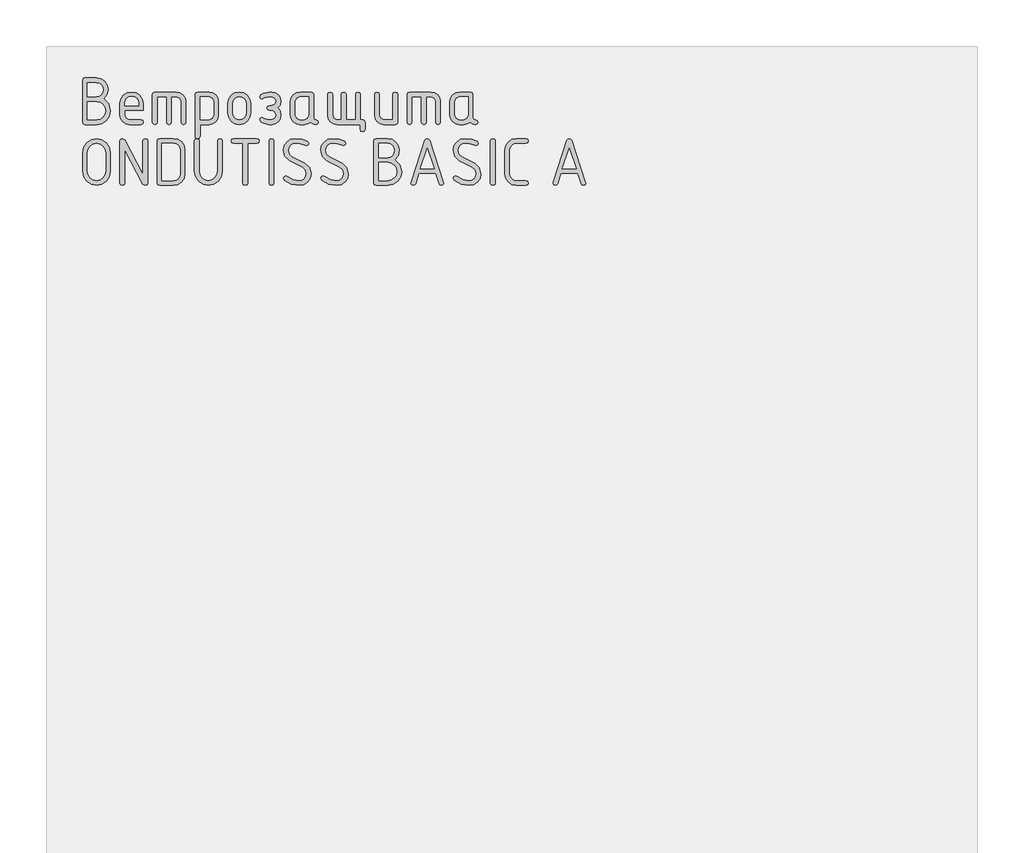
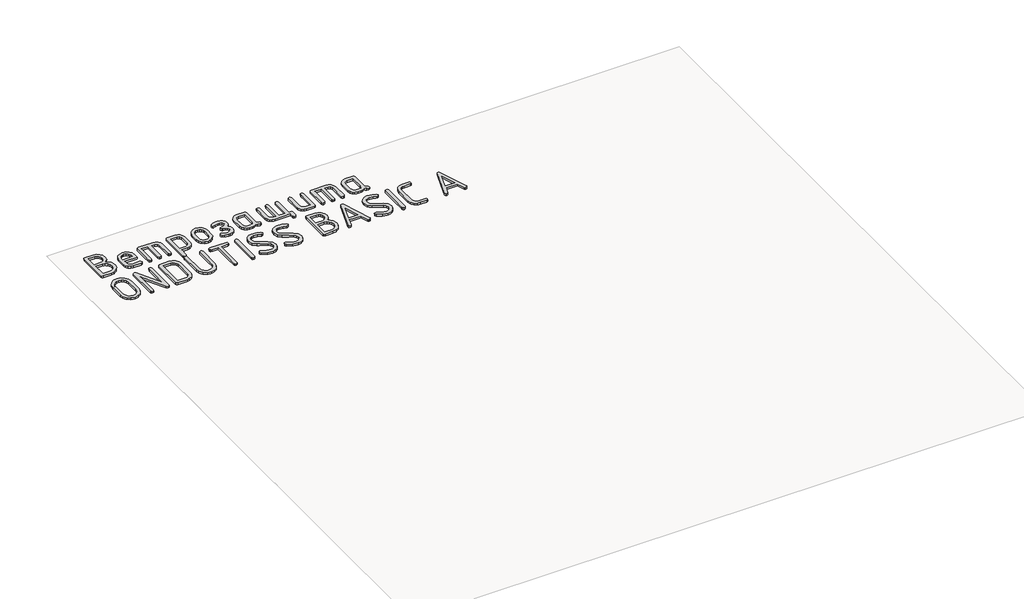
# One storey, part 18 of 42: 1 proxy.
"""IFC4 building model written with IfcOpenShell, lengths in millimetres."""

from ifc_helpers import new_model, si_unit, origin, origin_with_axes, place, context, project, spatial, polyline, outline, extrude, element, save

model = new_model("IFC4")

# Units and contexts
model_context = context("Model", 3, world=origin())
ifc_project = project(units=[si_unit("LENGTHUNIT", "METRE", prefix="MILLI")], contexts=[model_context])

# Site, building, storey
site = spatial("IfcSite", under=ifc_project)
building = spatial("IfcBuilding", under=site)
storey = spatial("IfcBuildingStorey", under=building, Name="Этаж 01", Elevation=0.0)

# Proxy
placement = place(None, origin())
element("IfcBuildingElementProxy", 1, Name="150 мм GOST Common", ObjectType="150 мм GOST Common", at=placement, inside=storey, context=model_context, shape_type="SweptSolid", body=[
    extrude(outline(polyline([(-23252.8873918, -30744.1512234), (-23236.4972471, -30759.9620699), (-23231.0338655, -30782.145197), (-23234.3098969, -30799.2594645), (-23244.137991, -30813.6869868), (-23258.6004709, -30823.5000991), (-23275.7796598, -30826.7711365), (-23313.0545046, -30826.7711365), (-23318.6577168, -30824.8834233), (-23320.5254542, -30819.2202837), (-23320.5254542, -30683.4647398), (-23318.6677047, -30677.8016002), (-23313.0944562, -30675.913887), (-23275.8995146, -30675.913887), (-23261.4620044, -30678.6905234), (-23249.4715299, -30687.0204324), (-23241.3963123, -30699.3854533), (-23238.7045731, -30714.267425), (-23242.2502778, -30730.9272431), (-23252.8873918, -30744.1512234)]), holes=[polyline([(-23305.184039, -30691.2553022), (-23305.184039, -30737.2795478), (-23275.9794178, -30737.2795478), (-23267.5446358, -30735.5965866), (-23260.4582204, -30730.5477029), (-23255.6490463, -30723.1117109), (-23254.0459883, -30714.267425), (-23255.6490463, -30705.4231391), (-23260.4582204, -30697.9871472), (-23267.5446358, -30692.9382635), (-23275.9794178, -30691.2553022), (-23305.184039, -30691.2553022)]), polyline([(-23305.184039, -30752.620963), (-23305.184039, -30811.4297213), (-23275.7796598, -30811.4297213), (-23264.3884593, -30809.2973045), (-23254.9049477, -30802.9000542), (-23248.5076975, -30793.4165427), (-23246.3752807, -30782.0253421), (-23248.5076975, -30770.6341416), (-23254.9049477, -30761.1506301), (-23264.3884593, -30754.7533798), (-23275.7796598, -30752.620963), (-23305.184039, -30752.620963)])]), origin_with_axes(), (0.0, 0.0, 1.0), 10.0),
    extrude(outline(polyline([(-23185.0096199, -30780.7468909), (-23185.0096199, -30796.0883061), (-23180.5749921, -30806.8952144), (-23170.0277691, -30811.4297213), (-23132.5132148, -30811.4297213), (-23126.8800389, -30813.3473982), (-23125.0023136, -30819.1004289), (-23126.8800389, -30824.8534596), (-23132.5132148, -30826.7711365), (-23170.0277691, -30826.7711365), (-23181.683649, -30824.6037621), (-23191.4817794, -30818.1016388), (-23198.1337212, -30808.443339), (-23200.3510351, -30796.8074349), (-23200.3510351, -30759.3727838), (-23197.5694048, -30744.9802191), (-23189.2245139, -30732.8848716), (-23176.9843418, -30724.6748174), (-23162.5168679, -30721.9381326), (-23147.9395271, -30724.5949142), (-23135.8491736, -30732.5652588), (-23127.7140286, -30744.4109088), (-23125.0023136, -30758.6936065), (-23125.0023136, -30780.7468909), (-23185.0096199, -30780.7468909)]), holes=[polyline([(-23162.5168679, -30735.4018225), (-23171.146414, -30737.0498261), (-23178.4176056, -30741.9938369), (-23183.3616163, -30749.2650284), (-23185.0096199, -30757.8945745), (-23185.0096199, -30765.4054757), (-23140.024116, -30765.4054757), (-23140.024116, -30757.8945745), (-23141.6721196, -30749.2650284), (-23146.6161303, -30741.9938369), (-23153.8873219, -30737.0498261), (-23162.5168679, -30735.4018225)])]), origin_with_axes(), (0.0, 0.0, 1.0), 10.0),
    extrude(outline(polyline([(-23087.8473237, -30721.9381326), (-23018.8109553, -30721.9381326), (-23006.9852811, -30724.1204889), (-22997.0772837, -30730.6675577), (-22990.3654146, -30740.3408393), (-22988.1281249, -30751.9018342), (-22988.1281249, -30819.3001869), (-22990.0458018, -30824.9033991), (-22995.7988325, -30826.7711365), (-23001.5518632, -30824.9033991), (-23003.4695401, -30819.3001869), (-23003.4695401, -30752.1814954), (-23007.8841921, -30741.574345), (-23018.8109553, -30737.2795478), (-23034.1523705, -30737.2795478), (-23034.1523705, -30819.3001869), (-23036.0700474, -30824.9033991), (-23041.8230781, -30826.7711365), (-23047.5761088, -30824.9033991), (-23049.4937857, -30819.3001869), (-23049.4937857, -30737.2795478), (-23080.1766161, -30737.2795478), (-23080.1766161, -30819.3001869), (-23082.094293, -30824.9033991), (-23087.8473237, -30826.7711365), (-23093.6003544, -30824.9033991), (-23095.5180313, -30819.3001869), (-23095.5180313, -30729.4090822), (-23093.6003544, -30723.80587), (-23087.8473237, -30721.9381326)])), origin_with_axes(), (0.0, 0.0, 1.0), 10.0),
    extrude(outline(polyline([(-22957.4452945, -30729.4889854), (-22955.587545, -30723.8258458), (-22950.0142965, -30721.9381326), (-22912.9392098, -30721.9381326), (-22901.4431363, -30724.105507), (-22891.8847155, -30730.6076303), (-22885.4425196, -30740.2659301), (-22883.295121, -30751.9018342), (-22883.295121, -30796.8074349), (-22885.4275378, -30808.3684298), (-22891.8247881, -30818.0417114), (-22901.3082996, -30824.5887802), (-22912.6995002, -30826.7711365), (-22942.1038793, -30826.7711365), (-22942.1038793, -30865.1246745), (-22944.0215562, -30870.8777052), (-22949.7745869, -30872.7953821), (-22955.5276176, -30870.9076689), (-22957.4452945, -30865.2445293), (-22957.4452945, -30729.4889854)]), holes=[polyline([(-22942.1038793, -30737.2795478), (-22942.1038793, -30811.4297213), (-22913.1389678, -30811.4297213), (-22902.871406, -30807.0949725), (-22898.6365362, -30796.6076769), (-22898.6365362, -30752.1015922), (-22902.8114786, -30741.5543692), (-22913.1389678, -30737.2795478), (-22942.1038793, -30737.2795478)])]), origin_with_axes(), (0.0, 0.0, 1.0), 10.0),
    extrude(outline(polyline([(-22852.6122906, -30789.3364853), (-22852.6122906, -30759.3727838), (-22849.9005756, -30744.9802191), (-22841.7654307, -30732.8848716), (-22829.784944, -30724.6748174), (-22815.5372039, -30721.9381326), (-22801.1396453, -30724.6448537), (-22789.1891223, -30732.7650168), (-22781.1438685, -30744.8304006), (-22778.4621172, -30759.3727838), (-22778.4621172, -30789.3364853), (-22781.1738322, -30803.72905), (-22789.3089771, -30815.8243975), (-22801.2894638, -30824.0344517), (-22815.5372039, -30826.7711365), (-22829.784944, -30824.0344517), (-22841.7654307, -30815.8243975), (-22849.9005756, -30803.72905), (-22852.6122906, -30789.3364853)]), holes=[polyline([(-22793.8035324, -30788.8970177), (-22793.8035324, -30758.8933645), (-22795.3966025, -30750.2638185), (-22800.1758129, -30742.9926269), (-22807.2023009, -30738.0486162), (-22815.5372039, -30736.4006126), (-22823.8721069, -30738.0486162), (-22830.8985949, -30742.9926269), (-22835.6778053, -30750.2638185), (-22837.2708754, -30758.8933645), (-22837.2708754, -30788.8970177), (-22835.6927871, -30797.606467), (-22830.9585223, -30804.8776585), (-22823.9470161, -30809.7917056), (-22815.5372039, -30811.4297213), (-22807.2023009, -30809.7817177), (-22800.1758129, -30804.8377069), (-22795.3966025, -30797.5565275), (-22793.8035324, -30788.8970177)])]), origin_with_axes(), (0.0, 0.0, 1.0), 10.0),
    extrude(outline(polyline([(-22696.6412361, -30796.0483545), (-22700.6363963, -30784.7020995), (-22709.505652, -30780.7468909), (-22719.1739397, -30780.7468909), (-22724.4875028, -30778.5495528), (-22726.6448893, -30773.1161349), (-22724.4275754, -30767.6627412), (-22717.0165532, -30765.4054757), (-22714.7393119, -30765.4054757), (-22712.3422157, -30765.4054757), (-22700.6763479, -30761.3503881), (-22696.6412361, -30751.3425118), (-22700.9759849, -30741.3346354), (-22711.6630385, -30737.2795478), (-22719.1739397, -30737.2795478), (-22734.5553065, -30741.0949258), (-22743.4645138, -30744.9103038), (-22747.459674, -30742.1736191), (-22749.1775929, -30736.9199834), (-22746.1013195, -30731.1769406), (-22736.8724994, -30726.013196), (-22719.1739397, -30721.9381326), (-22711.6630385, -30721.9381326), (-22699.9771949, -30724.0555675), (-22690.1690766, -30730.4078723), (-22683.5171348, -30739.8264625), (-22681.2998209, -30751.1427537), (-22683.9466146, -30764.4366493), (-22691.8869955, -30773.0761833), (-22683.9466146, -30782.2650518), (-22681.2998209, -30796.0883061), (-22683.5171348, -30807.9888895), (-22690.1690766, -30817.881905), (-22699.9771949, -30824.5488286), (-22711.6630385, -30826.7711365), (-22719.1739397, -30826.7711365), (-22736.9923542, -30822.8159279), (-22746.1312832, -30817.7420744), (-22749.1775929, -30811.7892857), (-22747.459674, -30806.5156742), (-22743.3446589, -30803.7989653), (-22734.2157179, -30807.6143433), (-22719.1739397, -30811.4297213), (-22711.6630385, -30811.4297213), (-22701.0159365, -30806.935166), (-22696.6412361, -30796.0483545)])), origin_with_axes(), (0.0, 0.0, 1.0), 10.0),
    extrude(outline(polyline([(-22561.4849663, -30819.3001869), (-22563.3527037, -30824.9033991), (-22568.9559159, -30826.7711365), (-22578.4344335, -30824.7835443), (-22586.01525, -30818.8207677), (-22595.1342031, -30824.7835443), (-22606.1109058, -30826.7711365), (-22620.9729018, -30826.7711365), (-22632.4689753, -30824.6037621), (-22642.0273961, -30818.1016388), (-22648.4695919, -30808.443339), (-22650.6169905, -30796.8074349), (-22650.6169905, -30751.9018342), (-22648.4695919, -30740.2659301), (-22642.0273961, -30730.6076303), (-22632.4689753, -30724.105507), (-22620.9729018, -30721.9381326), (-22583.8978151, -30721.9381326), (-22578.3245666, -30723.80587), (-22576.4668171, -30729.4090822), (-22576.4668171, -30804.3183361), (-22574.5940857, -30809.9215483), (-22568.9758917, -30811.7892857), (-22563.3576976, -30813.667011), (-22561.4849663, -30819.3001869)]), holes=[polyline([(-22591.8082323, -30737.2795478), (-22620.7731438, -30737.2795478), (-22631.0407055, -30741.6142966), (-22635.2755753, -30752.1015922), (-22635.2755753, -30796.6076769), (-22631.0007539, -30807.0550209), (-22620.7731438, -30811.4297213), (-22606.3106638, -30811.4297213), (-22596.0431021, -30807.0949725), (-22591.8082323, -30796.6076769), (-22591.8082323, -30737.2795478)])]), origin_with_axes(), (0.0, 0.0, 1.0), 10.0),
    extrude(outline(polyline([(-22425.6095676, -30826.7711365), (-22500.4788699, -30826.7711365), (-22512.114774, -30824.5887802), (-22521.7730738, -30818.0417114), (-22528.2751971, -30808.3684298), (-22530.4425715, -30796.8074349), (-22530.4425715, -30729.4090822), (-22528.5248946, -30723.80587), (-22522.7718639, -30721.9381326), (-22517.0188332, -30723.80587), (-22515.1011563, -30729.4090822), (-22515.1011563, -30796.5277737), (-22510.9461897, -30807.0150692), (-22501.0381924, -30811.4297213), (-22486.9752284, -30811.4297213), (-22486.9752284, -30729.4090822), (-22485.0575515, -30723.80587), (-22479.3045208, -30721.9381326), (-22473.5514901, -30723.80587), (-22471.6338132, -30729.4090822), (-22471.6338132, -30811.4297213), (-22440.9509828, -30811.4297213), (-22440.9509828, -30729.4090822), (-22439.0333059, -30723.80587), (-22433.2802752, -30721.9381326), (-22427.5272445, -30723.80587), (-22425.6095676, -30729.4090822), (-22425.6095676, -30811.4297213), (-22417.93886, -30811.4297213), (-22412.1858293, -30813.3473982), (-22410.2681524, -30819.1004289), (-22410.2681524, -30842.1125517), (-22412.1858293, -30847.8655824), (-22417.93886, -30849.7832593), (-22423.6918907, -30847.8655824), (-22425.6095676, -30842.1125517), (-22425.6095676, -30826.7711365)])), origin_with_axes(), (0.0, 0.0, 1.0), 10.0),
    extrude(outline(polyline([(-22305.4351486, -30729.4090822), (-22305.4351486, -30819.3001869), (-22307.2928981, -30824.9033991), (-22312.8661466, -30826.7711365), (-22349.9412333, -30826.7711365), (-22361.4373068, -30824.6037621), (-22370.9957276, -30818.1016388), (-22377.4379234, -30808.443339), (-22379.585322, -30796.8074349), (-22379.585322, -30729.4090822), (-22377.6676451, -30723.80587), (-22371.9146144, -30721.9381326), (-22366.1615837, -30723.80587), (-22364.2439068, -30729.4090822), (-22364.2439068, -30796.5277737), (-22359.9690854, -30807.0150692), (-22349.7414753, -30811.4297213), (-22320.7765638, -30811.4297213), (-22320.7765638, -30729.4090822), (-22318.8588869, -30723.80587), (-22313.1058562, -30721.9381326), (-22307.3528255, -30723.80587), (-22305.4351486, -30729.4090822)])), origin_with_axes(), (0.0, 0.0, 1.0), 10.0),
    extrude(outline(polyline([(-22267.0816106, -30721.9381326), (-22198.0452422, -30721.9381326), (-22186.219568, -30724.1204889), (-22176.3115707, -30730.6675577), (-22169.5997015, -30740.3408393), (-22167.3624118, -30751.9018342), (-22167.3624118, -30819.3001869), (-22169.2800887, -30824.9033991), (-22175.0331194, -30826.7711365), (-22180.7861501, -30824.9033991), (-22182.703827, -30819.3001869), (-22182.703827, -30752.1814954), (-22187.118479, -30741.574345), (-22198.0452422, -30737.2795478), (-22213.3866574, -30737.2795478), (-22213.3866574, -30819.3001869), (-22215.3043343, -30824.9033991), (-22221.057365, -30826.7711365), (-22226.8103957, -30824.9033991), (-22228.7280726, -30819.3001869), (-22228.7280726, -30737.2795478), (-22259.410903, -30737.2795478), (-22259.410903, -30819.3001869), (-22261.3285799, -30824.9033991), (-22267.0816106, -30826.7711365), (-22272.8346413, -30824.9033991), (-22274.7523182, -30819.3001869), (-22274.7523182, -30729.4090822), (-22272.8346413, -30723.80587), (-22267.0816106, -30721.9381326)])), origin_with_axes(), (0.0, 0.0, 1.0), 10.0),
    extrude(outline(polyline([(-22047.5475572, -30819.3001869), (-22049.4152946, -30824.9033991), (-22055.0185068, -30826.7711365), (-22064.4970244, -30824.7835443), (-22072.0778409, -30818.8207677), (-22081.196794, -30824.7835443), (-22092.1734967, -30826.7711365), (-22107.0354927, -30826.7711365), (-22118.5315662, -30824.6037621), (-22128.089987, -30818.1016388), (-22134.5321828, -30808.443339), (-22136.6795814, -30796.8074349), (-22136.6795814, -30751.9018342), (-22134.5321828, -30740.2659301), (-22128.089987, -30730.6076303), (-22118.5315662, -30724.105507), (-22107.0354927, -30721.9381326), (-22069.9604059, -30721.9381326), (-22064.3871575, -30723.80587), (-22062.529408, -30729.4090822), (-22062.529408, -30804.3183361), (-22060.6566766, -30809.9215483), (-22055.0384826, -30811.7892857), (-22049.4202885, -30813.667011), (-22047.5475572, -30819.3001869)]), holes=[polyline([(-22077.8708232, -30737.2795478), (-22106.8357347, -30737.2795478), (-22117.1032964, -30741.6142966), (-22121.3381662, -30752.1015922), (-22121.3381662, -30796.6076769), (-22117.0633448, -30807.0550209), (-22106.8357347, -30811.4297213), (-22092.3732547, -30811.4297213), (-22082.105693, -30807.0949725), (-22077.8708232, -30796.6076769), (-22077.8708232, -30737.2795478)])]), origin_with_axes(), (0.0, 0.0, 1.0), 10.0),
    extrude(outline(polyline([(-23231.0338655, -30977.5302169), (-23234.3098969, -30994.8991759), (-23244.137991, -31009.5314502), (-23258.6004709, -31019.4793991), (-23275.7796598, -31022.7953821), (-23292.9588487, -31019.4793991), (-23307.4213287, -31009.5314502), (-23317.2494228, -30994.8991759), (-23320.5254542, -30977.5302169), (-23320.5254542, -30917.2032978), (-23317.2494228, -30899.8343388), (-23307.4213287, -30885.2020645), (-23292.9588487, -30875.2541156), (-23275.7796598, -30871.9381326), (-23258.5255617, -30875.2391337), (-23244.0780636, -30885.1421371), (-23234.294915, -30899.7594295), (-23231.0338655, -30917.2032978), (-23231.0338655, -30977.5302169)]), holes=[polyline([(-23246.3752807, -30977.4103621), (-23246.3752807, -30917.3231526), (-23248.5076975, -30905.6772606), (-23254.9049477, -30895.9889971), (-23264.3884593, -30889.4569101), (-23275.7796598, -30887.2795478), (-23287.1708604, -30889.4569101), (-23296.6543719, -30895.9889971), (-23303.0516222, -30905.6772606), (-23305.184039, -30917.3231526), (-23305.184039, -30977.4103621), (-23303.0516222, -30989.0562541), (-23296.6543719, -30998.7445176), (-23287.1708604, -31005.2766046), (-23275.7796598, -31007.4539669), (-23264.3884593, -31005.2766046), (-23254.9049477, -30998.7445176), (-23248.5076975, -30989.0562541), (-23246.3752807, -30977.4103621)])]), origin_with_axes(), (0.0, 0.0, 1.0), 10.0),
    extrude(outline(polyline([(-23126.2008617, -30986.1198114), (-23126.2008617, -30879.4889854), (-23124.2831848, -30873.8258458), (-23118.5301541, -30871.9381326), (-23112.7771234, -30873.8258458), (-23110.8594465, -30879.4889854), (-23110.8594465, -31015.2445293), (-23112.8969782, -31020.9076689), (-23119.0095733, -31022.7953821), (-23126.2008617, -31019.0399315), (-23185.0096199, -30908.4938485), (-23185.0096199, -31015.2445293), (-23186.9272968, -31020.9076689), (-23192.6803275, -31022.7953821), (-23198.4333582, -31020.9076689), (-23200.3510351, -31015.2445293), (-23200.3510351, -30879.4889854), (-23198.353455, -30873.8258458), (-23192.3607147, -30871.9381326), (-23185.0096199, -30876.4127121), (-23126.2008617, -30986.1198114)])), origin_with_axes(), (0.0, 0.0, 1.0), 10.0),
    extrude(outline(polyline([(-23080.1766161, -30879.4889854), (-23078.3088787, -30873.8258458), (-23072.7056665, -30871.9381326), (-23027.9598721, -30871.9381326), (-23013.4874043, -30874.6648295), (-23001.47196, -30882.84492), (-22993.3817605, -30895.0001949), (-22990.6850274, -30909.652445), (-22990.6850274, -30985.0810697), (-22993.4117242, -30999.5835013), (-23001.5918148, -31011.7687399), (-23013.6372228, -31020.0387215), (-23027.9598721, -31022.7953821), (-23072.7056665, -31022.7953821), (-23078.3088787, -31020.9076689), (-23080.1766161, -31015.2445293), (-23080.1766161, -30879.4889854)]), holes=[polyline([(-23064.8352009, -30887.2795478), (-23064.8352009, -31007.4539669), (-23028.079727, -31007.4539669), (-23019.6049934, -31005.8059633), (-23012.4786263, -31000.8619525), (-23007.6394885, -30993.580773), (-23006.0264426, -30984.9212633), (-23006.0264426, -30909.8122514), (-23007.6394885, -30901.1527416), (-23012.4786263, -30893.8715622), (-23019.6049934, -30888.9275514), (-23028.079727, -30887.2795478), (-23064.8352009, -30887.2795478)])]), origin_with_axes(), (0.0, 0.0, 1.0), 10.0),
    extrude(outline(polyline([(-22870.5106084, -30879.4889854), (-22870.5106084, -30977.5302169), (-22873.7866397, -30994.8991759), (-22883.6147338, -31009.5314502), (-22898.0772138, -31019.4793991), (-22915.2564027, -31022.7953821), (-22932.4355916, -31019.4793991), (-22946.8980715, -31009.5314502), (-22956.7261656, -30994.8991759), (-22960.002197, -30977.5302169), (-22960.002197, -30879.4889854), (-22958.0845201, -30873.8258458), (-22952.3314894, -30871.9381326), (-22946.5784587, -30873.8158579), (-22944.6607818, -30879.4490338), (-22944.6607818, -30977.3304589), (-22942.5283651, -30989.0113086), (-22936.1311148, -30998.7245418), (-22926.6476032, -31005.2716106), (-22915.2564027, -31007.4539669), (-22903.8652021, -31005.2716106), (-22894.3816906, -30998.7245418), (-22887.9844403, -30989.0113086), (-22885.8520236, -30977.3304589), (-22885.8520236, -30879.4490338), (-22883.9343467, -30873.8158579), (-22878.181316, -30871.9381326), (-22872.4282853, -30873.8258458), (-22870.5106084, -30879.4889854)])), origin_with_axes(), (0.0, 0.0, 1.0), 10.0),
    extrude(outline(polyline([(-22841.5456969, -30879.6088402), (-22839.6679716, -30873.8558095), (-22834.0347957, -30871.9381326), (-22758.6860741, -30871.9381326), (-22753.082862, -30873.8558095), (-22751.2151246, -30879.6088402), (-22753.082862, -30885.3618709), (-22758.6860741, -30887.2795478), (-22788.6897273, -30887.2795478), (-22788.6897273, -31015.2844809), (-22790.6074042, -31020.9176568), (-22796.3604349, -31022.7953821), (-22802.1134656, -31020.9176568), (-22804.0311425, -31015.2844809), (-22804.0311425, -30887.2795478), (-22834.0347957, -30887.2795478), (-22839.6679716, -30885.3618709), (-22841.5456969, -30879.6088402)])), origin_with_axes(), (0.0, 0.0, 1.0), 10.0),
    extrude(outline(polyline([(-22711.9826513, -31022.7953821), (-22717.735682, -31020.9076689), (-22719.6533589, -31015.2445293), (-22719.6533589, -30879.4889854), (-22717.735682, -30873.8258458), (-22711.9826513, -30871.9381326), (-22706.2296206, -30873.8258458), (-22704.3119437, -30879.4889854), (-22704.3119437, -31015.2445293), (-22706.2296206, -31020.9076689), (-22711.9826513, -31022.7953821)])), origin_with_axes(), (0.0, 0.0, 1.0), 10.0),
    extrude(outline(polyline([(-22584.1375247, -30985.1609729), (-22586.8792034, -30999.5535376), (-22595.1042394, -31011.7287883), (-22607.1646293, -31020.0287336), (-22621.4123694, -31022.7953821), (-22647.4308503, -31018.6104518), (-22670.353082, -31006.0556608), (-22673.6291133, -30999.9430657), (-22671.4317752, -30994.6494784), (-22666.1981153, -30992.4321645), (-22661.9632455, -30993.790519), (-22641.5080253, -31004.2578387), (-22621.7319822, -31007.4539669), (-22613.1823394, -31005.8009693), (-22605.991051, -31000.8419767), (-22601.1069677, -30993.5458154), (-22599.4789399, -30984.8813117), (-22602.5652011, -30972.9158069), (-22611.8239849, -30964.665801), (-22653.5334575, -30943.0120327), (-22668.6051994, -30929.3985243), (-22673.6291133, -30909.5725418), (-22670.9024165, -30895.1799771), (-22662.722326, -30883.0047264), (-22650.7268574, -30874.7047811), (-22636.5540266, -30871.9381326), (-22613.3721095, -30874.0256038), (-22596.4026665, -30880.2880175), (-22591.9680387, -30887.2795478), (-22594.1853526, -30892.5731351), (-22599.4789399, -30894.790449), (-22602.5951648, -30893.991417), (-22619.4747167, -30888.9575151), (-22636.2344138, -30887.2795478), (-22644.7091474, -30888.9325454), (-22651.8355144, -30893.891538), (-22656.6746522, -30901.1876993), (-22658.2876981, -30909.852203), (-22655.2513764, -30921.7877441), (-22646.1424111, -30929.9478588), (-22604.4728901, -30951.6016272), (-22589.221366, -30965.3050267), (-22584.1375247, -30985.1609729)])), origin_with_axes(), (0.0, 0.0, 1.0), 10.0),
    extrude(outline(polyline([(-22463.9631056, -30985.1609729), (-22466.7047843, -30999.5535376), (-22474.9298204, -31011.7287883), (-22486.9902103, -31020.0287336), (-22501.2379504, -31022.7953821), (-22527.2564312, -31018.6104518), (-22550.1786629, -31006.0556608), (-22553.4546943, -30999.9430657), (-22551.2573562, -30994.6494784), (-22546.0236963, -30992.4321645), (-22541.7888265, -30993.790519), (-22521.3336062, -31004.2578387), (-22501.5575632, -31007.4539669), (-22493.0079203, -31005.8009693), (-22485.816632, -31000.8419767), (-22480.9325486, -30993.5458154), (-22479.3045208, -30984.8813117), (-22482.3907821, -30972.9158069), (-22491.6495659, -30964.665801), (-22533.3590384, -30943.0120327), (-22548.4307803, -30929.3985243), (-22553.4546943, -30909.5725418), (-22550.7279974, -30895.1799771), (-22542.5479069, -30883.0047264), (-22530.5524384, -30874.7047811), (-22516.3796075, -30871.9381326), (-22493.1976904, -30874.0256038), (-22476.2282475, -30880.2880175), (-22471.7936196, -30887.2795478), (-22474.0109335, -30892.5731351), (-22479.3045208, -30894.790449), (-22482.4207458, -30893.991417), (-22499.3002977, -30888.9575151), (-22516.0599947, -30887.2795478), (-22524.5347283, -30888.9325454), (-22531.6610953, -30893.891538), (-22536.5002331, -30901.1876993), (-22538.1132791, -30909.852203), (-22535.0769573, -30921.7877441), (-22525.967992, -30929.9478588), (-22484.2984711, -30951.6016272), (-22469.046947, -30965.3050267), (-22463.9631056, -30985.1609729)])), origin_with_axes(), (0.0, 0.0, 1.0), 10.0),
    extrude(outline(polyline([(-22314.5041623, -30940.175469), (-22298.1140175, -30955.9863155), (-22292.6506359, -30978.1694425), (-22295.9266673, -30995.2837101), (-22305.7547614, -31009.7112324), (-22320.2172414, -31019.5243446), (-22337.3964302, -31022.7953821), (-22374.671275, -31022.7953821), (-22380.2744872, -31020.9076689), (-22382.1422246, -31015.2445293), (-22382.1422246, -30879.4889854), (-22380.2844751, -30873.8258458), (-22374.7112266, -30871.9381326), (-22337.5162851, -30871.9381326), (-22323.0787749, -30874.714769), (-22311.0883003, -30883.044678), (-22303.0130827, -30895.4096988), (-22300.3213435, -30910.2916706), (-22303.8670482, -30926.9514887), (-22314.5041623, -30940.175469)]), holes=[polyline([(-22366.8008094, -30887.2795478), (-22366.8008094, -30933.3037934), (-22337.5961883, -30933.3037934), (-22329.1614063, -30931.6208322), (-22322.0749908, -30926.5719485), (-22317.2658167, -30919.1359565), (-22315.6627587, -30910.2916706), (-22317.2658167, -30901.4473847), (-22322.0749908, -30894.0113928), (-22329.1614063, -30888.9625091), (-22337.5961883, -30887.2795478), (-22366.8008094, -30887.2795478)]), polyline([(-22366.8008094, -30948.6452086), (-22366.8008094, -31007.4539669), (-22337.3964302, -31007.4539669), (-22326.0052297, -31005.3215501), (-22316.5217182, -30998.9242998), (-22310.1244679, -30989.4407883), (-22307.9920511, -30978.0495877), (-22310.1244679, -30966.6583872), (-22316.5217182, -30957.1748757), (-22326.0052297, -30950.7776254), (-22337.3964302, -30948.6452086), (-22366.8008094, -30948.6452086)])]), origin_with_axes(), (0.0, 0.0, 1.0), 10.0),
    extrude(outline(polyline([(-22157.2946081, -31015.2445293), (-22159.1723334, -31020.9076689), (-22164.8055093, -31022.7953821), (-22169.3300282, -31021.4869671), (-22171.956846, -31017.5617222), (-22182.7437786, -30984.4418441), (-22236.8382478, -30984.4418441), (-22247.665132, -31017.5617222), (-22250.2919498, -31021.4869671), (-22254.8164688, -31022.7953821), (-22260.4496446, -31020.9076689), (-22262.3273699, -31015.2445293), (-22261.9678055, -31012.8474332), (-22217.3019144, -30878.0107761), (-22214.4054233, -30873.4562935), (-22209.7910132, -30871.9381326), (-22205.2365306, -30873.3963661), (-22202.4399184, -30877.7710665), (-22157.6541725, -31012.8474332), (-22157.2946081, -31015.2445293)]), holes=[polyline([(-22209.7910132, -30902.9405758), (-22231.8442976, -30969.1004289), (-22187.7776805, -30969.1004289), (-22209.7910132, -30902.9405758)])]), origin_with_axes(), (0.0, 0.0, 1.0), 10.0),
    extrude(outline(polyline([(-22036.9603826, -30985.1609729), (-22039.7020613, -30999.5535376), (-22047.9270974, -31011.7287883), (-22059.9874873, -31020.0287336), (-22074.2352274, -31022.7953821), (-22100.2537082, -31018.6104518), (-22123.1759399, -31006.0556608), (-22126.4519713, -30999.9430657), (-22124.2546332, -30994.6494784), (-22119.0209733, -30992.4321645), (-22114.7861035, -30993.790519), (-22094.3308832, -31004.2578387), (-22074.5548402, -31007.4539669), (-22066.0051973, -31005.8009693), (-22058.813909, -31000.8419767), (-22053.9298256, -30993.5458154), (-22052.3017978, -30984.8813117), (-22055.3880591, -30972.9158069), (-22064.6468429, -30964.665801), (-22106.3563154, -30943.0120327), (-22121.4280573, -30929.3985243), (-22126.4519713, -30909.5725418), (-22123.7252744, -30895.1799771), (-22115.5451839, -30883.0047264), (-22103.5497154, -30874.7047811), (-22089.3768846, -30871.9381326), (-22066.1949674, -30874.0256038), (-22049.2255245, -30880.2880175), (-22044.7908966, -30887.2795478), (-22047.0082105, -30892.5731351), (-22052.3017978, -30894.790449), (-22055.4180228, -30893.991417), (-22072.2975747, -30888.9575151), (-22089.0572717, -30887.2795478), (-22097.5320053, -30888.9325454), (-22104.6583723, -30893.891538), (-22109.4975101, -30901.1876993), (-22111.1105561, -30909.852203), (-22108.0742343, -30921.7877441), (-22098.9652691, -30929.9478588), (-22057.2957481, -30951.6016272), (-22042.044224, -30965.3050267), (-22036.9603826, -30985.1609729)])), origin_with_axes(), (0.0, 0.0, 1.0), 10.0),
    extrude(outline(polyline([(-21998.6068446, -31022.7953821), (-22004.3598753, -31020.9076689), (-22006.2775522, -31015.2445293), (-22006.2775522, -30879.4889854), (-22004.3598753, -30873.8258458), (-21998.6068446, -30871.9381326), (-21992.8538139, -30873.8258458), (-21990.936137, -30879.4889854), (-21990.936137, -31015.2445293), (-21992.8538139, -31020.9076689), (-21998.6068446, -31022.7953821)])), origin_with_axes(), (0.0, 0.0, 1.0), 10.0),
    extrude(outline(polyline([(-21892.4154863, -30871.9381326), (-21886.7823104, -30873.8558095), (-21884.9045851, -30879.6088402), (-21886.7823104, -30885.3618709), (-21892.4154863, -30887.2795478), (-21922.4191395, -30887.2795478), (-21931.1235948, -30888.9275514), (-21938.3798045, -30893.8715622), (-21943.2788697, -30901.1527416), (-21944.9118914, -30909.8122514), (-21944.9118914, -30984.9212633), (-21943.2638879, -30993.580773), (-21938.3198771, -31000.8619525), (-21931.0486855, -31005.8059633), (-21922.4191395, -31007.4539669), (-21892.4154863, -31007.4539669), (-21886.7823104, -31009.3716438), (-21884.9045851, -31015.1246745), (-21886.7823104, -31020.8777052), (-21892.4154863, -31022.7953821), (-21922.4191395, -31022.7953821), (-21936.8866134, -31020.0387215), (-21949.1267855, -31011.7687399), (-21957.4716763, -30999.5835013), (-21960.2533066, -30985.0810697), (-21960.2533066, -30909.652445), (-21957.4716763, -30895.1500134), (-21949.1267855, -30882.9647748), (-21936.8866134, -30874.6947932), (-21922.4191395, -30871.9381326), (-21892.4154863, -30871.9381326)])), origin_with_axes(), (0.0, 0.0, 1.0), 10.0),
    extrude(outline(polyline([(-21699.6090547, -31015.2445293), (-21701.48678, -31020.9076689), (-21707.1199559, -31022.7953821), (-21711.6444748, -31021.4869671), (-21714.2712927, -31017.5617222), (-21725.0582252, -30984.4418441), (-21779.1526944, -30984.4418441), (-21789.9795786, -31017.5617222), (-21792.6063964, -31021.4869671), (-21797.1309154, -31022.7953821), (-21802.7640913, -31020.9076689), (-21804.6418165, -31015.2445293), (-21804.2822521, -31012.8474332), (-21759.616361, -30878.0107761), (-21756.7198699, -30873.4562935), (-21752.1054598, -30871.9381326), (-21747.5509772, -30873.3963661), (-21744.754365, -30877.7710665), (-21699.9686191, -31012.8474332), (-21699.6090547, -31015.2445293)]), holes=[polyline([(-21752.1054598, -30902.9405758), (-21774.1587442, -30969.1004289), (-21730.0921271, -30969.1004289), (-21752.1054598, -30902.9405758)])]), origin_with_axes(), (0.0, 0.0, 1.0), 10.0),
])

save(model, "model.ifc")
